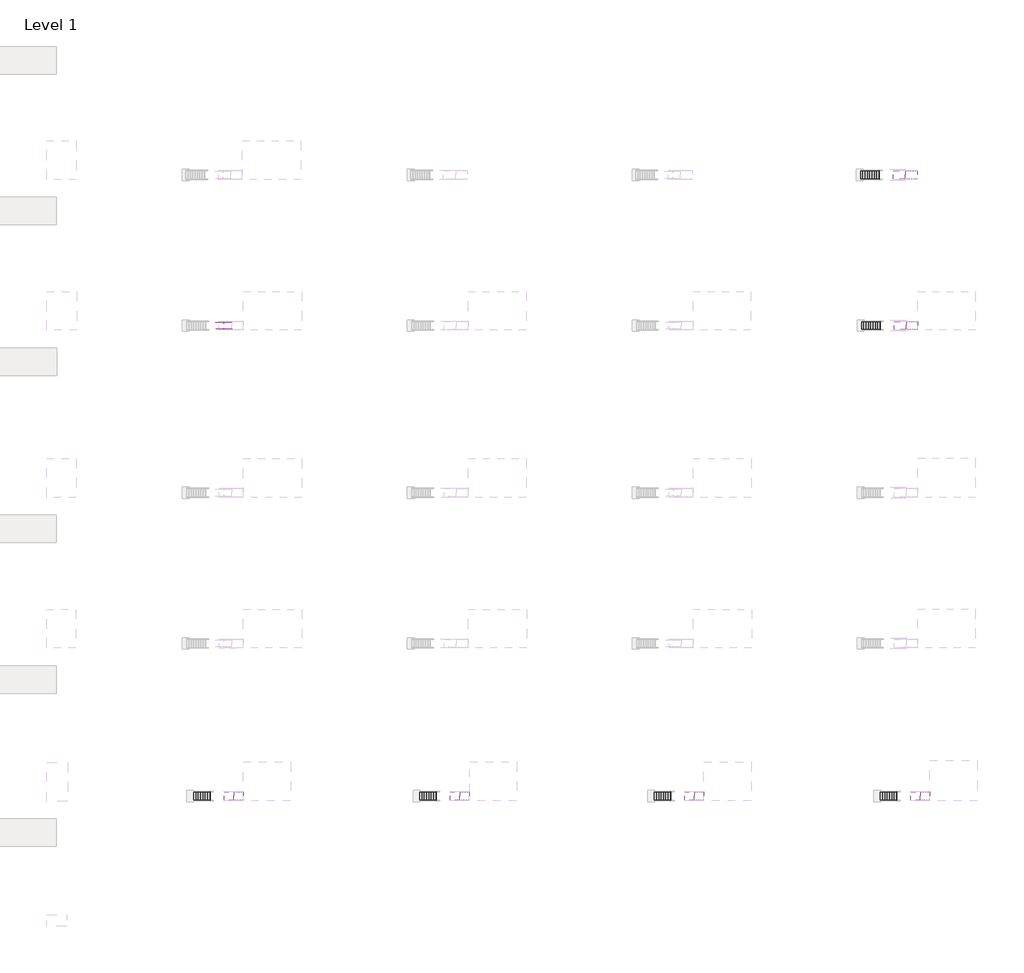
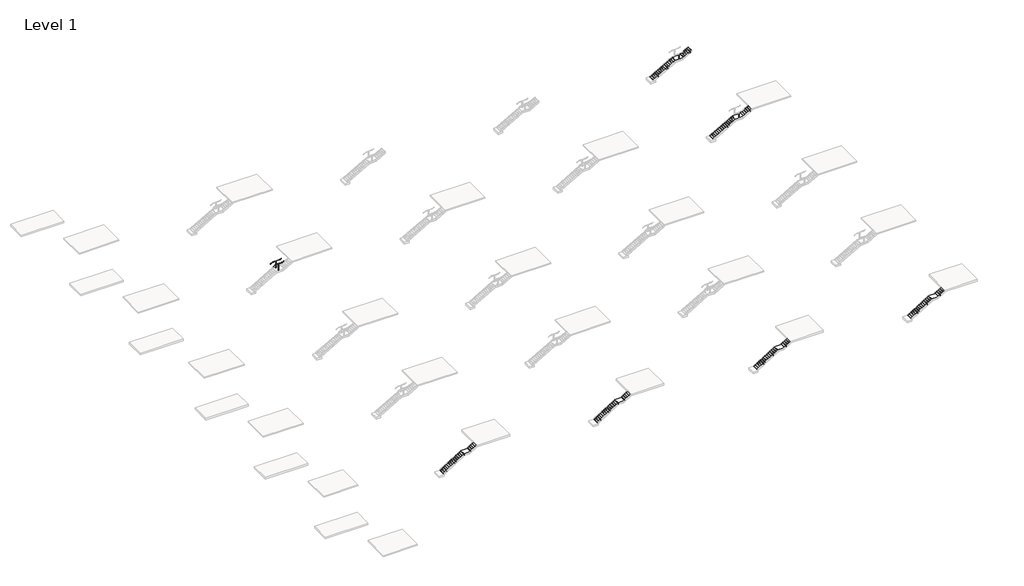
# One storey, part 29 of 36: 12 stair flights, 6 slabs, 2 railings.
"""IFC4 building model written with IfcOpenShell, lengths in millimetres."""

from ifc_helpers import new_model, si_unit, point, frame, frame_2d, origin, place, context, project, spatial, polyline, circle_curve, ellipse_curve, trimmed, segment, composite_curve, outline, extrude, transform, mapped, element, save
from ifc_brep_helpers import plane_surface, cylinder_surface, revolved_surface, advanced_brep
from components import non_monolithic_landing_3095d626, non_monolithic_landing_f6b10c4e, non_monolithic_landing_62def4c6, non_monolithic_landing_78137b62, non_monolithic_landing_c4f6e05a, non_monolithic_landing_090549e4, stair_flight_c7015294, stair_flight_4947435c, stair_flight_3032ab9d, stair_flight_241b84f4, stair_flight_890952b5, stair_flight_93be44c5, stair_flight_0a3a4cb7, stair_flight_6512d4ac, stair_flight_8c7c9975, stair_flight_f84f33cc, stair_flight_66ac9dfc, stair_flight_3dfb1ecf

model = new_model("IFC4")

# Units and contexts
model_context = context("Model", 3, world=origin())
ifc_project = project(units=[si_unit("LENGTHUNIT", "METRE", prefix="MILLI")], contexts=[model_context])

# Site, building, storey
site = spatial("IfcSite", under=ifc_project)
building = spatial("IfcBuilding", under=site)
storey = spatial("IfcBuildingStorey", under=building, Name="Level 1", Elevation=0.0)

# Railings
placement = place(None, origin())
element("IfcRailing", 1, ObjectType="VIVA-BLADE-Glass-Core Mount-Stair-Landing", at=placement, inside=storey, context=model_context, shape_type="SolidModel", body=[
    advanced_brep(
    [(87472.8048368, 15909.5395941, 3047.7740933), (87472.8048368, 15960.3395941, 3047.7740933), (87860.5501735, 15909.5395941, 3269.3428571), (87860.5501735, 15960.3395941, 3269.3428571), (88927.3501735, 15909.5395941, 3269.3428571), (88927.3501735, 15960.3395941, 3269.3428571), (89177.7798368, 15909.5395941, 3412.4455219), (89177.7798368, 15960.3395941, 3412.4455219)],
    [
        (0, 1, ellipse_curve(frame((87472.8048368, 15934.9395941, 3047.7740933), z_axis=(-1.0, 0.0, 0.0), x_axis=(0.0, 0.0, -0.9999999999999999)), 29.2544781, 25.4)),
        (1, 0, ellipse_curve(frame((87472.8048368, 15934.9395941, 3047.7740933), z_axis=(-1.0, 0.0, 0.0), x_axis=(0.0, 0.0, -0.9999999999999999)), 29.2544781, 25.4)),
        (0, 2),
        (2, 3, ellipse_curve(frame((87860.5501735, 15934.9395941, 3269.3428571), z_axis=(-0.9664996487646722, 0.0, -0.2566679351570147), x_axis=(0.25666793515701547, 0.0, -0.9664996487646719)), 26.2804027, 25.4)),
        (3, 1),
        (3, 2, ellipse_curve(frame((87860.5501735, 15934.9395941, 3269.3428571), z_axis=(-0.9664996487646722, 0.0, -0.2566679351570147), x_axis=(0.25666793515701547, 0.0, -0.9664996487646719)), 26.2804027, 25.4)),
        (2, 4),
        (4, 5, ellipse_curve(frame((88927.3501735, 15934.9395941, 3269.3428571), z_axis=(-0.9664996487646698, 0.0, -0.2566679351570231), x_axis=(-0.2566679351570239, 0.0, 0.9664996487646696)), 26.2804027, 25.4)),
        (5, 3),
        (5, 4, ellipse_curve(frame((88927.3501735, 15934.9395941, 3269.3428571), z_axis=(-0.9664996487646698, 0.0, -0.2566679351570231), x_axis=(-0.2566679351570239, 0.0, 0.9664996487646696)), 26.2804027, 25.4)),
        (6, 7, ellipse_curve(frame((89177.7798368, 15934.9395941, 3412.4455219), z_axis=(1.0, 0.0, 0.0), x_axis=(0.0, 0.0, -1.0)), 29.2544781, 25.4)),
        (7, 6, ellipse_curve(frame((89177.7798368, 15934.9395941, 3412.4455219), z_axis=(1.0, 0.0, 0.0), x_axis=(0.0, 0.0, -1.0)), 29.2544781, 25.4)),
        (4, 6),
        (7, 5),
    ],
    [
        plane_surface(frame((87472.8048368, 15934.9395941, 3077.0285714), z_axis=(-1.0, 0.0, 0.0), x_axis=(0.0, 1.0, 0.0))),
        cylinder_surface(frame((87485.4067658, 15934.9395941, 3054.9751956), z_axis=(-0.868243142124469, 0.0, -0.49613893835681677), x_axis=(0.0, 1.0, 0.0)), 25.4),
        cylinder_surface(frame((87853.8048368, 15934.9395941, 3269.3428571), z_axis=(-1.0, 0.0, 0.0), x_axis=(0.0, 1.0, 0.0)), 25.4),
        plane_surface(frame((89177.7798368, 15934.9395941, 3441.7), z_axis=(1.0, 0.0, 0.0), x_axis=(0.0, 1.0, 0.0))),
        cylinder_surface(frame((88933.2067658, 15934.9395941, 3272.6894813), z_axis=(-0.8682431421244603, 0.0, -0.4961389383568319), x_axis=(0.0, 1.0, 0.0)), 25.4),
    ],
    [
        (0, [[1, 2]]),
        (1, [[-1, 3, 4, 5]]),
        (1, [[-2, -5, 6, -3]]),
        (2, [[-4, 7, 8, 9]]),
        (2, [[-6, -9, 10, -7]]),
        (3, [[11, 12]]),
        (4, [[-8, 13, -12, 14]]),
        (4, [[-10, -14, -11, -13]]),
    ],
),
    extrude(outline(composite_curve([segment(trimmed(circle_curve(frame_2d((0.0, 7.0)), 7.0), [point((0.0, 14.0))], [point((0.0, 0.0))], False, "CARTESIAN"), True, "CONTINUOUS"), segment(trimmed(circle_curve(frame_2d((0.0, 7.0)), 7.0), [point((0.0, 0.0))], [point((0.0, 14.0))], False, "CARTESIAN"), True, "CONTINUOUS")], self_intersect=False)), frame((88325.2080869, 16020.6232165, 3013.7229503), z_axis=(0.0012555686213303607, 0.0, 0.999999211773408), x_axis=(0.999999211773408, 0.0, -0.0012555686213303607)), (0.0, 0.0, 1.0), 75.97),
    extrude(outline(composite_curve([segment(trimmed(circle_curve(frame_2d((16028.8711486, 3111.669086)), 19.05), [point((16015.3415603, 3098.2581672))], [point((16042.4007368, 3098.2581672))], True, "CARTESIAN"), True, "CONTINUOUS"), segment(polyline([(16042.4007368, 3098.2581672), (16043.4271264, 3097.2407802)]), True, "CONTINUOUS"), segment(trimmed(circle_curve(frame_2d((16042.3711486, 3096.1754583)), 1.5), [point((16043.4271264, 3097.2407802))], [point((16043.35655, 3095.0445366))], False, "CARTESIAN"), True, "CONTINUOUS"), segment(trimmed(circle_curve(frame_2d((16028.8711486, 3111.669086)), 22.05), [point((16043.35655, 3095.0445366))], [point((16014.3857471, 3095.0445366))], False, "CARTESIAN"), True, "CONTINUOUS"), segment(trimmed(circle_curve(frame_2d((16015.3711486, 3096.1754583)), 1.5), [point((16014.3857471, 3095.0445366))], [point((16014.3151707, 3097.2407802))], False, "CARTESIAN"), True, "CONTINUOUS"), segment(polyline([(16014.3151707, 3097.2407802), (16015.3415603, 3098.2581672)]), True, "CONTINUOUS")], self_intersect=False)), frame((88288.8567022, 0.0, 0.0), z_axis=(1.0, 0.0, 0.0), x_axis=(0.0, 1.0, 0.0)), (0.0, 0.0, 1.0), 74.5229187),
    extrude(outline(composite_curve([segment(trimmed(circle_curve(frame_2d((3040.5995463, 88325.2679904)), 12.5), [point((3040.5995463, 88312.7679904))], [point((3040.5995463, 88337.7679904))], False, "CARTESIAN"), True, "CONTINUOUS"), segment(trimmed(circle_curve(frame_2d((3040.5995463, 88325.2679904)), 12.5), [point((3040.5995463, 88337.7679904))], [point((3040.5995463, 88312.7679904))], False, "CARTESIAN"), True, "CONTINUOUS")], self_intersect=False)), frame((0.0, 15960.3393908, 0.0), z_axis=(0.0, 1.0, 0.0), x_axis=(0.0, 0.0, 1.0)), (0.0, 0.0, 1.0), 82.061346),
    extrude(outline(polyline([(88352.3671725, 15966.6893908), (88352.3671725, 15960.3393908), (88298.2397725, 15960.3393908), (88298.2397725, 15966.6893908), (88352.3671725, 15966.6893908)])), frame((0.0, 0.0, 3013.6558249), z_axis=(0.0, 0.0, 1.0), x_axis=(1.0, 0.0, 0.0)), (0.0, 0.0, 1.0), 54.1734375),
    extrude(outline(composite_curve([segment(trimmed(circle_curve(frame_2d((88325.2803999, 15931.5036542)), 63.5), [point((88325.2803999, 15868.0036542))], [point((88325.2803999, 15995.0036542))], False, "CARTESIAN"), True, "CONTINUOUS"), segment(trimmed(circle_curve(frame_2d((88325.2803999, 15931.5036542)), 63.5), [point((88325.2803999, 15995.0036542))], [point((88325.2803999, 15868.0036542))], False, "CARTESIAN"), True, "CONTINUOUS")], self_intersect=False)), frame((0.0, 0.0, 2177.1428571), z_axis=(0.0, 0.0, 1.0), x_axis=(1.0, 0.0, 0.0)), (0.0, 0.0, 1.0), 9.525),
    advanced_brep(
    [(88370.5297368, 15947.6997177, 3247.3396226), (88370.5297368, 15922.8276532, 3247.1963856), (88370.5297368, 15920.0187229, 3242.3696317), (88370.5297368, 15951.5356152, 3242.9503901), (88280.0549368, 15947.6997177, 3247.3396226), (88280.0549368, 15951.5356152, 3242.9503901), (88280.0549368, 15919.9049295, 3242.4322535), (88280.0549368, 15922.7406811, 3247.2447018)],
    [
        (0, 1, circle_curve(frame((88370.5297368, 15935.1359148, 3269.4544469), z_axis=(-1.0, 0.0, 0.0), x_axis=(0.0, 1.0, 0.0)), 25.4345159)),
        (1, 2, circle_curve(frame((88370.5297368, 15921.496028, 3244.742217), z_axis=(1.0, 0.0, 0.0), x_axis=(0.0, 1.0, 0.0)), 2.7949225)),
        (2, 3, circle_curve(frame((88370.5297368, 15935.2693779, 3270.2170736), z_axis=(1.0, 0.0, 0.0), x_axis=(0.0, 1.0, 0.0)), 31.75)),
        (3, 0, circle_curve(frame((88370.5297368, 15949.2472754, 3244.8213092), z_axis=(1.0, 0.0, 0.0), x_axis=(0.0, 1.0, 0.0)), 2.9558141)),
        (4, 5, circle_curve(frame((88280.0549368, 15949.2472754, 3244.8213092), z_axis=(-1.0, 0.0, 0.0), x_axis=(0.0, 1.0, 0.0)), 2.9558141)),
        (5, 6, circle_curve(frame((88280.0549368, 15935.2693779, 3270.2170736), z_axis=(-1.0, 0.0, 0.0), x_axis=(0.0, 1.0, 0.0)), 31.75)),
        (6, 7, circle_curve(frame((88280.0549368, 15921.496028, 3244.742217), z_axis=(-1.0, 0.0, 0.0), x_axis=(0.0, 1.0, 0.0)), 2.7949225)),
        (7, 4, circle_curve(frame((88280.0549368, 15935.1359148, 3269.4544469), z_axis=(1.0, 0.0, 0.0), x_axis=(0.0, 1.0, 0.0)), 25.4345159)),
        (0, 4),
        (7, 1),
        (6, 2),
        (5, 3),
    ],
    [
        plane_surface(frame((88370.5297368, 15960.5704307, 3269.4544469), z_axis=(1.0, 0.0, 0.0), x_axis=(0.0, 0.0, -1.0))),
        plane_surface(frame((88280.0549368, 15960.5704307, 3269.4544469), z_axis=(-1.0, 0.0, 0.0), x_axis=(0.0, 0.0, 1.0))),
        revolved_surface(polyline([(88280.0549368, 15960.5704307, 3269.4544469), (88370.5297368, 15960.5704307, 3269.4544469)]), (88280.0549368, 15935.1359148, 3269.4544469), (-1.0, 0.0, 0.0)),
        cylinder_surface(frame((88280.0549368, 15921.496028, 3244.742217), z_axis=(1.0, 0.0, 0.0), x_axis=(0.0, 1.0, 0.0)), 2.7949225),
        cylinder_surface(frame((88280.0549368, 15935.2693779, 3270.2170736), z_axis=(1.0, 0.0, 0.0), x_axis=(0.0, 1.0, 0.0)), 31.75),
        cylinder_surface(frame((88280.0549368, 15949.2472754, 3244.8213092), z_axis=(1.0, 0.0, 0.0), x_axis=(0.0, 1.0, 0.0)), 2.9558141),
    ],
    [
        (0, [[1, 2, 3, 4]]),
        (1, [[5, 6, 7, 8]]),
        (2, [[-1, 9, -8, 10]]),
        (3, [[-2, -10, -7, 11]]),
        (4, [[-3, -11, -6, 12]]),
        (5, [[-4, -12, -5, -9]]),
    ],
),
    advanced_brep(
    [(88337.9923368, 15937.4795941, 3229.6553571), (88312.5923368, 15937.4795941, 3229.6553571), (88298.2244219, 15937.4795941, 3244.023272), (88352.3602517, 15937.4795941, 3244.023272), (88337.9923368, 15932.3995941, 3229.6553571), (88352.3602517, 15932.3995941, 3244.023272), (88298.2244219, 15932.3995941, 3244.023272), (88312.5923368, 15932.3995941, 3229.6553571)],
    [
        (0, 1),
        (1, 2, circle_curve(frame((88298.2244219, 15937.4795941, 3229.6553571), z_axis=(0.0, -1.0, 0.0), x_axis=(-1.0, 0.0, 0.0)), 14.3679149)),
        (2, 3),
        (3, 0, circle_curve(frame((88352.3602517, 15937.4795941, 3229.6553571), z_axis=(0.0, -1.0, 0.0), x_axis=(-1.0, 0.0, 0.0)), 14.3679149)),
        (4, 5, circle_curve(frame((88352.3602517, 15932.3995941, 3229.6553571), z_axis=(0.0, 1.0, 0.0), x_axis=(-1.0, 0.0, 0.0)), 14.3679149)),
        (5, 6),
        (6, 7, circle_curve(frame((88298.2244219, 15932.3995941, 3229.6553571), z_axis=(0.0, 1.0, 0.0), x_axis=(-1.0, 0.0, 0.0)), 14.3679149)),
        (7, 4),
        (0, 4),
        (7, 1),
        (6, 2),
        (5, 3),
    ],
    [
        plane_surface(frame((88312.5923368, 15937.4795941, 3229.6553571), z_axis=(0.0, 1.0, 0.0), x_axis=(-1.0, 0.0, 0.0))),
        plane_surface(frame((88312.5923368, 15932.3995941, 3229.6553571), z_axis=(0.0, -1.0, 0.0), x_axis=(1.0, 0.0, 0.0))),
        plane_surface(frame((88337.9923368, 15937.4795941, 3229.6553571), z_axis=(0.0, 0.0, -1.0), x_axis=(0.0, -1.0, 0.0))),
        revolved_surface(polyline([(88283.856507, 15932.3995941, 3229.6553571), (88283.856507, 15937.4795941, 3229.6553571)]), (88298.2244219, 15932.3995941, 3229.6553571), (0.0, -1.0, 0.0)),
        plane_surface(frame((88298.2244219, 15937.4795941, 3244.023272), z_axis=(0.0, 0.0, 1.0), x_axis=(0.0, -1.0, 0.0))),
        revolved_surface(polyline([(88337.9923368, 15932.3995941, 3229.6553571), (88337.9923368, 15937.4795941, 3229.6553571)]), (88352.3602517, 15932.3995941, 3229.6553571), (0.0, -1.0, 0.0)),
    ],
    [
        (0, [[1, 2, 3, 4]]),
        (1, [[5, 6, 7, 8]]),
        (2, [[-1, 9, -8, 10]]),
        (3, [[-2, -10, -7, 11]]),
        (4, [[-3, -11, -6, 12]]),
        (5, [[-4, -12, -5, -9]]),
    ],
),
    extrude(outline(polyline([(88298.2175011, 15960.3393908), (88306.2423368, 15960.3393908), (88306.2423368, 15909.5370662), (88298.2175011, 15909.5370662), (88298.2175011, 15960.3393908)])), frame((0.0, 0.0, 2237.6440557), z_axis=(0.0, 0.0, 1.0), x_axis=(1.0, 0.0, 0.0)), (0.0, 0.0, 1.0), 974.5488015),
    extrude(outline(polyline([(88333.221338, 15960.3389919), (88333.221338, 15909.5389996), (88317.2853476, 15909.5389996), (88317.2853476, 15960.3389919), (88333.221338, 15960.3389919)])), frame((0.0, 0.0, 2075.5428571), z_axis=(0.0, 0.0, 1.0), x_axis=(1.0, 0.0, 0.0)), (0.0, 0.0, 1.0), 342.9),
    extrude(outline(composite_curve([segment(trimmed(circle_curve(frame_2d((15922.2371172, 3201.2845501)), 8.89), [point((15913.3471172, 3201.2845501))], [point((15931.1271172, 3201.2845501))], False, "CARTESIAN"), True, "CONTINUOUS"), segment(trimmed(circle_curve(frame_2d((15922.2371172, 3201.2845501)), 8.89), [point((15931.1271172, 3201.2845501))], [point((15913.3471172, 3201.2845501))], False, "CARTESIAN"), True, "CONTINUOUS")], self_intersect=False)), frame((88293.5423368, 0.0, 0.0), z_axis=(1.0, 0.0, 0.0), x_axis=(0.0, 1.0, 0.0)), (0.0, 0.0, 1.0), 63.4880631),
    extrude(outline(composite_curve([segment(trimmed(circle_curve(frame_2d((15947.6370151, 3201.2845501)), 8.89), [point((15938.7470151, 3201.2845501))], [point((15956.5270151, 3201.2845501))], False, "CARTESIAN"), True, "CONTINUOUS"), segment(trimmed(circle_curve(frame_2d((15947.6370151, 3201.2845501)), 8.89), [point((15956.5270151, 3201.2845501))], [point((15938.7470151, 3201.2845501))], False, "CARTESIAN"), True, "CONTINUOUS")], self_intersect=False)), frame((88293.5423368, 0.0, 0.0), z_axis=(1.0, 0.0, 0.0), x_axis=(0.0, 1.0, 0.0)), (0.0, 0.0, 1.0), 63.4880631),
    extrude(outline(polyline([(3189.9551571, 88306.2423368), (3189.9551571, 88344.3423368), (3223.3053571, 88344.3423368), (3229.6553571, 88337.9923368), (3229.6553571, 88312.5923368), (3223.3053571, 88306.2423368), (3189.9551571, 88306.2423368)])), frame((0.0, 15909.5370662, 0.0), z_axis=(0.0, 1.0, 0.0), x_axis=(0.0, 0.0, 1.0)), (0.0, 0.0, 1.0), 50.8025279),
    extrude(outline(composite_curve([segment(trimmed(circle_curve(frame_2d((15934.9397998, 2385.1476493)), 19.05), [point((15915.8897998, 2385.1476493))], [point((15953.9897998, 2385.1476493))], False, "CARTESIAN"), True, "CONTINUOUS"), segment(trimmed(circle_curve(frame_2d((15934.9397998, 2385.1476493)), 19.05), [point((15953.9897998, 2385.1476493))], [point((15915.8897998, 2385.1476493))], False, "CARTESIAN"), True, "CONTINUOUS")], self_intersect=False)), frame((88288.8433368, 0.0, 0.0), z_axis=(1.0, 0.0, 0.0), x_axis=(0.0, 1.0, 0.0)), (0.0, 0.0, 1.0), 72.8981531),
    extrude(outline(composite_curve([segment(trimmed(circle_curve(frame_2d((15934.9397998, 2296.2476493)), 19.05), [point((15915.8897998, 2296.2476493))], [point((15953.9897998, 2296.2476493))], False, "CARTESIAN"), True, "CONTINUOUS"), segment(trimmed(circle_curve(frame_2d((15934.9397998, 2296.2476493)), 19.05), [point((15953.9897998, 2296.2476493))], [point((15915.8897998, 2296.2476493))], False, "CARTESIAN"), True, "CONTINUOUS")], self_intersect=False)), frame((88288.8433368, 0.0, 0.0), z_axis=(1.0, 0.0, 0.0), x_axis=(0.0, 1.0, 0.0)), (0.0, 0.0, 1.0), 72.8981531),
    extrude(outline(polyline([(88344.3422988, 15960.3393908), (88352.3432988, 15960.3393908), (88352.3432988, 15909.5370662), (88344.3422988, 15909.5370662), (88344.3422988, 15960.3393908)])), frame((0.0, 0.0, 2237.6440557), z_axis=(0.0, 0.0, 1.0), x_axis=(1.0, 0.0, 0.0)), (0.0, 0.0, 1.0), 974.5488015),
])
element("IfcRailing", 2, ObjectType="VIVA-BLADE-Glass-Core Mount-Stair-Landing", at=placement, inside=storey, context=model_context, shape_type="SolidModel", body=[
    advanced_brep(
    [(87472.8048368, 16646.1395941, 3047.7740933), (87472.8048368, 16696.9395941, 3047.7740933), (87860.5501735, 16646.1395941, 3269.3428571), (87860.5501735, 16696.9395941, 3269.3428571), (88927.3501735, 16646.1395941, 3269.3428571), (88927.3501735, 16696.9395941, 3269.3428571), (89177.7798368, 16646.1395941, 3412.4455219), (89177.7798368, 16696.9395941, 3412.4455219)],
    [
        (0, 1, ellipse_curve(frame((87472.8048368, 16671.5395941, 3047.7740933), z_axis=(-1.0, 0.0, 0.0), x_axis=(0.0, 0.0, -0.9999999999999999)), 29.2544781, 25.4)),
        (1, 0, ellipse_curve(frame((87472.8048368, 16671.5395941, 3047.7740933), z_axis=(-1.0, 0.0, 0.0), x_axis=(0.0, 0.0, -0.9999999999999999)), 29.2544781, 25.4)),
        (0, 2),
        (2, 3, ellipse_curve(frame((87860.5501735, 16671.5395941, 3269.3428571), z_axis=(-0.9664996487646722, 0.0, -0.2566679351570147), x_axis=(0.25666793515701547, 0.0, -0.9664996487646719)), 26.2804027, 25.4)),
        (3, 1),
        (3, 2, ellipse_curve(frame((87860.5501735, 16671.5395941, 3269.3428571), z_axis=(-0.9664996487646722, 0.0, -0.2566679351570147), x_axis=(0.25666793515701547, 0.0, -0.9664996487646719)), 26.2804027, 25.4)),
        (2, 4),
        (4, 5, ellipse_curve(frame((88927.3501735, 16671.5395941, 3269.3428571), z_axis=(-0.9664996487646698, 0.0, -0.2566679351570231), x_axis=(-0.2566679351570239, 0.0, 0.9664996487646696)), 26.2804027, 25.4)),
        (5, 3),
        (5, 4, ellipse_curve(frame((88927.3501735, 16671.5395941, 3269.3428571), z_axis=(-0.9664996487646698, 0.0, -0.2566679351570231), x_axis=(-0.2566679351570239, 0.0, 0.9664996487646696)), 26.2804027, 25.4)),
        (6, 7, ellipse_curve(frame((89177.7798368, 16671.5395941, 3412.4455219), z_axis=(1.0, 0.0, 0.0), x_axis=(0.0, 0.0, -1.0)), 29.2544781, 25.4)),
        (7, 6, ellipse_curve(frame((89177.7798368, 16671.5395941, 3412.4455219), z_axis=(1.0, 0.0, 0.0), x_axis=(0.0, 0.0, -1.0)), 29.2544781, 25.4)),
        (4, 6),
        (7, 5),
    ],
    [
        plane_surface(frame((87472.8048368, 16671.5395941, 3077.0285714), z_axis=(-1.0, 0.0, 0.0), x_axis=(0.0, 1.0, 0.0))),
        cylinder_surface(frame((87485.4067658, 16671.5395941, 3054.9751956), z_axis=(-0.868243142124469, 0.0, -0.49613893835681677), x_axis=(0.0, 1.0, 0.0)), 25.4),
        cylinder_surface(frame((87853.8048368, 16671.5395941, 3269.3428571), z_axis=(-1.0, 0.0, 0.0), x_axis=(0.0, 1.0, 0.0)), 25.4),
        plane_surface(frame((89177.7798368, 16671.5395941, 3441.7), z_axis=(1.0, 0.0, 0.0), x_axis=(0.0, 1.0, 0.0))),
        cylinder_surface(frame((88933.2067658, 16671.5395941, 3272.6894813), z_axis=(-0.8682431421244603, 0.0, -0.4961389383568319), x_axis=(0.0, 1.0, 0.0)), 25.4),
    ],
    [
        (0, [[1, 2]]),
        (1, [[-1, 3, 4, 5]]),
        (1, [[-2, -5, 6, -3]]),
        (2, [[-4, 7, 8, 9]]),
        (2, [[-6, -9, 10, -7]]),
        (3, [[11, 12]]),
        (4, [[-8, 13, -12, 14]]),
        (4, [[-10, -14, -11, -13]]),
    ],
),
    extrude(outline(composite_curve([segment(trimmed(circle_curve(frame_2d((0.0, -7.0)), 7.0), [point((0.0, -14.0))], [point((0.0, 0.0))], False, "CARTESIAN"), True, "CONTINUOUS"), segment(trimmed(circle_curve(frame_2d((0.0, -7.0)), 7.0), [point((0.0, 0.0))], [point((0.0, -14.0))], False, "CARTESIAN"), True, "CONTINUOUS")], self_intersect=False)), frame((88325.2080869, 16585.8559717, 3013.7229503), z_axis=(0.0012555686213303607, 0.0, 0.999999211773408), x_axis=(0.999999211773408, 0.0, -0.0012555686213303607)), (0.0, 0.0, 1.0), 75.97),
    extrude(outline(composite_curve([segment(polyline([(16591.1376279, 3098.2581672), (16592.1640175, 3097.2407802)]), True, "CONTINUOUS"), segment(trimmed(circle_curve(frame_2d((16591.1080396, 3096.1754583)), 1.5), [point((16592.1640175, 3097.2407802))], [point((16592.0934411, 3095.0445366))], False, "CARTESIAN"), True, "CONTINUOUS"), segment(trimmed(circle_curve(frame_2d((16577.6080396, 3111.669086)), 22.05), [point((16592.0934411, 3095.0445366))], [point((16563.1226382, 3095.0445366))], False, "CARTESIAN"), True, "CONTINUOUS"), segment(trimmed(circle_curve(frame_2d((16564.1080396, 3096.1754583)), 1.5), [point((16563.1226382, 3095.0445366))], [point((16563.0520618, 3097.2407802))], False, "CARTESIAN"), True, "CONTINUOUS"), segment(polyline([(16563.0520618, 3097.2407802), (16564.0784514, 3098.2581672)]), True, "CONTINUOUS"), segment(trimmed(circle_curve(frame_2d((16577.6080396, 3111.669086)), 19.05), [point((16564.0784514, 3098.2581672))], [point((16591.1376279, 3098.2581672))], True, "CARTESIAN"), True, "CONTINUOUS")], self_intersect=False)), frame((88288.8567022, 0.0, 0.0), z_axis=(1.0, 0.0, 0.0), x_axis=(0.0, 1.0, 0.0)), (0.0, 0.0, 1.0), 74.5229187),
    extrude(outline(composite_curve([segment(trimmed(circle_curve(frame_2d((3040.5995463, 88325.2679904)), 12.5), [point((3040.5995463, 88312.7679904))], [point((3040.5995463, 88337.7679904))], False, "CARTESIAN"), True, "CONTINUOUS"), segment(trimmed(circle_curve(frame_2d((3040.5995463, 88325.2679904)), 12.5), [point((3040.5995463, 88337.7679904))], [point((3040.5995463, 88312.7679904))], False, "CARTESIAN"), True, "CONTINUOUS")], self_intersect=False)), frame((0.0, 16564.0784514, 0.0), z_axis=(0.0, 1.0, 0.0), x_axis=(0.0, 0.0, 1.0)), (0.0, 0.0, 1.0), 82.061346),
    extrude(outline(polyline([(88352.3671725, 16639.7897974), (88298.2397725, 16639.7897974), (88298.2397725, 16646.1397974), (88352.3671725, 16646.1397974), (88352.3671725, 16639.7897974)])), frame((0.0, 0.0, 3013.6558249), z_axis=(0.0, 0.0, 1.0), x_axis=(1.0, 0.0, 0.0)), (0.0, 0.0, 1.0), 54.1734375),
    extrude(outline(composite_curve([segment(trimmed(circle_curve(frame_2d((88325.2803999, 16674.975534)), 63.5), [point((88325.2803999, 16738.475534))], [point((88325.2803999, 16611.475534))], False, "CARTESIAN"), True, "CONTINUOUS"), segment(trimmed(circle_curve(frame_2d((88325.2803999, 16674.975534)), 63.5), [point((88325.2803999, 16611.475534))], [point((88325.2803999, 16738.475534))], False, "CARTESIAN"), True, "CONTINUOUS")], self_intersect=False)), frame((0.0, 0.0, 2177.1428571), z_axis=(0.0, 0.0, 1.0), x_axis=(1.0, 0.0, 0.0)), (0.0, 0.0, 1.0), 9.525),
    advanced_brep(
    [(88370.5297368, 16658.7794705, 3247.3396226), (88370.5297368, 16654.9435731, 3242.9503901), (88370.5297368, 16686.4604653, 3242.3696317), (88370.5297368, 16683.651535, 3247.1963856), (88280.0549368, 16658.7794705, 3247.3396226), (88280.0549368, 16683.7385071, 3247.2447018), (88280.0549368, 16686.5742587, 3242.4322535), (88280.0549368, 16654.9435731, 3242.9503901)],
    [
        (0, 1, circle_curve(frame((88370.5297368, 16657.2319128, 3244.8213092), z_axis=(1.0, 0.0, 0.0), x_axis=(0.0, -1.0, 0.0)), 2.9558141)),
        (1, 2, circle_curve(frame((88370.5297368, 16671.2098103, 3270.2170736), z_axis=(1.0, 0.0, 0.0), x_axis=(0.0, -1.0, 0.0)), 31.75)),
        (2, 3, circle_curve(frame((88370.5297368, 16684.9831602, 3244.742217), z_axis=(1.0, 0.0, 0.0), x_axis=(0.0, -1.0, 0.0)), 2.7949225)),
        (3, 0, circle_curve(frame((88370.5297368, 16671.3432734, 3269.4544469), z_axis=(-1.0, 0.0, 0.0), x_axis=(0.0, -1.0, 0.0)), 25.4345159)),
        (4, 5, circle_curve(frame((88280.0549368, 16671.3432734, 3269.4544469), z_axis=(1.0, 0.0, 0.0), x_axis=(0.0, -1.0, 0.0)), 25.4345159)),
        (5, 6, circle_curve(frame((88280.0549368, 16684.9831602, 3244.742217), z_axis=(-1.0, 0.0, 0.0), x_axis=(0.0, -1.0, 0.0)), 2.7949225)),
        (6, 7, circle_curve(frame((88280.0549368, 16671.2098103, 3270.2170736), z_axis=(-1.0, 0.0, 0.0), x_axis=(0.0, -1.0, 0.0)), 31.75)),
        (7, 4, circle_curve(frame((88280.0549368, 16657.2319128, 3244.8213092), z_axis=(-1.0, 0.0, 0.0), x_axis=(0.0, -1.0, 0.0)), 2.9558141)),
        (3, 5),
        (4, 0),
        (2, 6),
        (1, 7),
    ],
    [
        plane_surface(frame((88370.5297368, 16645.9087575, 3269.4544469), z_axis=(1.0, 0.0, 0.0), x_axis=(0.0, 0.0, -1.0))),
        plane_surface(frame((88280.0549368, 16645.9087575, 3269.4544469), z_axis=(-1.0, 0.0, 0.0), x_axis=(0.0, 0.0, 1.0))),
        revolved_surface(polyline([(88280.0549368, 16645.9087575, 3269.4544469), (88370.5297368, 16645.9087575, 3269.4544469)]), (88280.0549368, 16671.3432734, 3269.4544469), (-1.0, 0.0, 0.0)),
        cylinder_surface(frame((88280.0549368, 16684.9831602, 3244.742217), z_axis=(1.0, 0.0, 0.0), x_axis=(0.0, -1.0, 0.0)), 2.7949225),
        cylinder_surface(frame((88280.0549368, 16671.2098103, 3270.2170736), z_axis=(1.0, 0.0, 0.0), x_axis=(0.0, -1.0, 0.0)), 31.75),
        cylinder_surface(frame((88280.0549368, 16657.2319128, 3244.8213092), z_axis=(1.0, 0.0, 0.0), x_axis=(0.0, -1.0, 0.0)), 2.9558141),
    ],
    [
        (0, [[1, 2, 3, 4]]),
        (1, [[5, 6, 7, 8]]),
        (2, [[9, -5, 10, -4]]),
        (3, [[11, -6, -9, -3]]),
        (4, [[12, -7, -11, -2]]),
        (5, [[-10, -8, -12, -1]]),
    ],
),
    advanced_brep(
    [(88337.9923368, 16668.9995941, 3229.6553571), (88352.3602517, 16668.9995941, 3244.023272), (88298.2244219, 16668.9995941, 3244.023272), (88312.5923368, 16668.9995941, 3229.6553571), (88337.9923368, 16674.0795941, 3229.6553571), (88312.5923368, 16674.0795941, 3229.6553571), (88298.2244219, 16674.0795941, 3244.023272), (88352.3602517, 16674.0795941, 3244.023272)],
    [
        (0, 1, circle_curve(frame((88352.3602517, 16668.9995941, 3229.6553571), z_axis=(0.0, 1.0, 0.0), x_axis=(-1.0, 0.0, 0.0)), 14.3679149)),
        (1, 2),
        (2, 3, circle_curve(frame((88298.2244219, 16668.9995941, 3229.6553571), z_axis=(0.0, 1.0, 0.0), x_axis=(-1.0, 0.0, 0.0)), 14.3679149)),
        (3, 0),
        (4, 5),
        (5, 6, circle_curve(frame((88298.2244219, 16674.0795941, 3229.6553571), z_axis=(0.0, -1.0, 0.0), x_axis=(-1.0, 0.0, 0.0)), 14.3679149)),
        (6, 7),
        (7, 4, circle_curve(frame((88352.3602517, 16674.0795941, 3229.6553571), z_axis=(0.0, -1.0, 0.0), x_axis=(-1.0, 0.0, 0.0)), 14.3679149)),
        (3, 5),
        (4, 0),
        (2, 6),
        (1, 7),
    ],
    [
        plane_surface(frame((88312.5923368, 16668.9995941, 3229.6553571), z_axis=(0.0, -1.0, 0.0), x_axis=(-1.0, 0.0, 0.0))),
        plane_surface(frame((88312.5923368, 16674.0795941, 3229.6553571), z_axis=(0.0, 1.0, 0.0), x_axis=(1.0, 0.0, 0.0))),
        plane_surface(frame((88337.9923368, 16668.9995941, 3229.6553571), z_axis=(0.0, 0.0, -1.0), x_axis=(0.0, 1.0, 0.0))),
        revolved_surface(polyline([(88283.856507, 16674.0795941, 3229.6553571), (88283.856507, 16668.9995941, 3229.6553571)]), (88298.2244219, 16674.0795941, 3229.6553571), (0.0, 1.0, 0.0)),
        plane_surface(frame((88298.2244219, 16668.9995941, 3244.023272), z_axis=(0.0, 0.0, 1.0), x_axis=(0.0, 1.0, 0.0))),
        revolved_surface(polyline([(88337.9923368, 16674.0795941, 3229.6553571), (88337.9923368, 16668.9995941, 3229.6553571)]), (88352.3602517, 16674.0795941, 3229.6553571), (0.0, 1.0, 0.0)),
    ],
    [
        (0, [[1, 2, 3, 4]]),
        (1, [[5, 6, 7, 8]]),
        (2, [[9, -5, 10, -4]]),
        (3, [[11, -6, -9, -3]]),
        (4, [[12, -7, -11, -2]]),
        (5, [[-10, -8, -12, -1]]),
    ],
),
    extrude(outline(polyline([(88298.2175011, 16646.1397974), (88298.2175011, 16696.942122), (88306.2423368, 16696.942122), (88306.2423368, 16646.1397974), (88298.2175011, 16646.1397974)])), frame((0.0, 0.0, 2237.6440557), z_axis=(0.0, 0.0, 1.0), x_axis=(1.0, 0.0, 0.0)), (0.0, 0.0, 1.0), 974.5488015),
    extrude(outline(polyline([(88333.221338, 16646.1401963), (88317.2853476, 16646.1401963), (88317.2853476, 16696.9401886), (88333.221338, 16696.9401886), (88333.221338, 16646.1401963)])), frame((0.0, 0.0, 2075.5428571), z_axis=(0.0, 0.0, 1.0), x_axis=(1.0, 0.0, 0.0)), (0.0, 0.0, 1.0), 342.9),
    extrude(outline(composite_curve([segment(trimmed(circle_curve(frame_2d((16684.242071, 3201.2845501)), 8.89), [point((16693.132071, 3201.2845501))], [point((16675.352071, 3201.2845501))], False, "CARTESIAN"), True, "CONTINUOUS"), segment(trimmed(circle_curve(frame_2d((16684.242071, 3201.2845501)), 8.89), [point((16675.352071, 3201.2845501))], [point((16693.132071, 3201.2845501))], False, "CARTESIAN"), True, "CONTINUOUS")], self_intersect=False)), frame((88293.5423368, 0.0, 0.0), z_axis=(1.0, 0.0, 0.0), x_axis=(0.0, 1.0, 0.0)), (0.0, 0.0, 1.0), 63.4880631),
    extrude(outline(composite_curve([segment(trimmed(circle_curve(frame_2d((16658.8421731, 3201.2845501)), 8.89), [point((16667.7321731, 3201.2845501))], [point((16649.9521731, 3201.2845501))], False, "CARTESIAN"), True, "CONTINUOUS"), segment(trimmed(circle_curve(frame_2d((16658.8421731, 3201.2845501)), 8.89), [point((16649.9521731, 3201.2845501))], [point((16667.7321731, 3201.2845501))], False, "CARTESIAN"), True, "CONTINUOUS")], self_intersect=False)), frame((88293.5423368, 0.0, 0.0), z_axis=(1.0, 0.0, 0.0), x_axis=(0.0, 1.0, 0.0)), (0.0, 0.0, 1.0), 63.4880631),
    extrude(outline(polyline([(3189.9551571, 88306.2423368), (3189.9551571, 88344.3423368), (3223.3053571, 88344.3423368), (3229.6553571, 88337.9923368), (3229.6553571, 88312.5923368), (3223.3053571, 88306.2423368), (3189.9551571, 88306.2423368)])), frame((0.0, 16646.1395941, 0.0), z_axis=(0.0, 1.0, 0.0), x_axis=(0.0, 0.0, 1.0)), (0.0, 0.0, 1.0), 50.8025279),
    extrude(outline(composite_curve([segment(trimmed(circle_curve(frame_2d((16671.5393884, 2385.1476493)), 19.05), [point((16690.5893884, 2385.1476493))], [point((16652.4893884, 2385.1476493))], False, "CARTESIAN"), True, "CONTINUOUS"), segment(trimmed(circle_curve(frame_2d((16671.5393884, 2385.1476493)), 19.05), [point((16652.4893884, 2385.1476493))], [point((16690.5893884, 2385.1476493))], False, "CARTESIAN"), True, "CONTINUOUS")], self_intersect=False)), frame((88288.8433368, 0.0, 0.0), z_axis=(1.0, 0.0, 0.0), x_axis=(0.0, 1.0, 0.0)), (0.0, 0.0, 1.0), 72.8981531),
    extrude(outline(composite_curve([segment(trimmed(circle_curve(frame_2d((16671.5393884, 2296.2476493)), 19.05), [point((16690.5893884, 2296.2476493))], [point((16652.4893884, 2296.2476493))], False, "CARTESIAN"), True, "CONTINUOUS"), segment(trimmed(circle_curve(frame_2d((16671.5393884, 2296.2476493)), 19.05), [point((16652.4893884, 2296.2476493))], [point((16690.5893884, 2296.2476493))], False, "CARTESIAN"), True, "CONTINUOUS")], self_intersect=False)), frame((88288.8433368, 0.0, 0.0), z_axis=(1.0, 0.0, 0.0), x_axis=(0.0, 1.0, 0.0)), (0.0, 0.0, 1.0), 72.8981531),
    extrude(outline(polyline([(88344.3422988, 16646.1397974), (88344.3422988, 16696.942122), (88352.3432988, 16696.942122), (88352.3432988, 16646.1397974), (88344.3422988, 16646.1397974)])), frame((0.0, 0.0, 2237.6440557), z_axis=(0.0, 0.0, 1.0), x_axis=(1.0, 0.0, 0.0)), (0.0, 0.0, 1.0), 974.5488015),
])

# Slabs
non_monolithic_landing_shape = non_monolithic_landing_3095d626(model_context)
element("IfcSlab", 3, ObjectType="Non-Monolithic Landing", at=placement, inside=storey, context=model_context, shape_type="MappedRepresentation", body=[
    mapped(non_monolithic_landing_shape, transform((0.0, 0.0, 0.0), x_axis=(1.0, 0.0, 0.0), y_axis=(0.0, 1.0, 0.0), z_axis=(0.0, 0.0, 1.0))),
])
non_monolithic_landing_2_shape = non_monolithic_landing_f6b10c4e(model_context)
element("IfcSlab", 4, ObjectType="Non-Monolithic Landing", at=placement, inside=storey, context=model_context, shape_type="MappedRepresentation", body=[
    mapped(non_monolithic_landing_2_shape, transform((0.0, 0.0, 0.0), x_axis=(1.0, 0.0, 0.0), y_axis=(0.0, 1.0, 0.0), z_axis=(0.0, 0.0, 1.0))),
])
non_monolithic_landing_3_shape = non_monolithic_landing_62def4c6(model_context)
element("IfcSlab", 5, ObjectType="Non-Monolithic Landing", at=placement, inside=storey, context=model_context, shape_type="MappedRepresentation", body=[
    mapped(non_monolithic_landing_3_shape, transform((0.0, 0.0, 0.0), x_axis=(1.0, 0.0, 0.0), y_axis=(0.0, 1.0, 0.0), z_axis=(0.0, 0.0, 1.0))),
])
non_monolithic_landing_4_shape = non_monolithic_landing_78137b62(model_context)
element("IfcSlab", 6, ObjectType="Non-Monolithic Landing", at=placement, inside=storey, context=model_context, shape_type="MappedRepresentation", body=[
    mapped(non_monolithic_landing_4_shape, transform((0.0, 0.0, 0.0), x_axis=(1.0, 0.0, 0.0), y_axis=(0.0, 1.0, 0.0), z_axis=(0.0, 0.0, 1.0))),
])
non_monolithic_landing_5_shape = non_monolithic_landing_c4f6e05a(model_context)
element("IfcSlab", 7, ObjectType="Non-Monolithic Landing", at=placement, inside=storey, context=model_context, shape_type="MappedRepresentation", body=[
    mapped(non_monolithic_landing_5_shape, transform((0.0, 0.0, 0.0), x_axis=(1.0, 0.0, 0.0), y_axis=(0.0, 1.0, 0.0), z_axis=(0.0, 0.0, 1.0))),
])
non_monolithic_landing_6_shape = non_monolithic_landing_090549e4(model_context)
element("IfcSlab", 8, ObjectType="Non-Monolithic Landing", at=placement, inside=storey, context=model_context, shape_type="MappedRepresentation", body=[
    mapped(non_monolithic_landing_6_shape, transform((0.0, 0.0, 0.0), x_axis=(1.0, 0.0, 0.0), y_axis=(0.0, 1.0, 0.0), z_axis=(0.0, 0.0, 1.0))),
])

# Stair flights
stair_flight_shape = stair_flight_c7015294(model_context)
element("IfcStairFlight", 9, ObjectType="2\" Tread 1/4\" Riser", at=placement, inside=storey, context=model_context, shape_type="MappedRepresentation", body=[
    mapped(stair_flight_shape, transform((0.0, 0.0, 0.0), x_axis=(1.0, 0.0, 0.0), y_axis=(0.0, 1.0, 0.0), z_axis=(0.0, 0.0, 1.0))),
])
stair_flight_2_shape = stair_flight_4947435c(model_context)
element("IfcStairFlight", 10, ObjectType="2\" Tread 1/4\" Riser", at=placement, inside=storey, context=model_context, shape_type="MappedRepresentation", body=[
    mapped(stair_flight_2_shape, transform((0.0, 0.0, 0.0), x_axis=(1.0, 0.0, 0.0), y_axis=(0.0, 1.0, 0.0), z_axis=(0.0, 0.0, 1.0))),
])
stair_flight_3_shape = stair_flight_3032ab9d(model_context)
element("IfcStairFlight", 11, ObjectType="2\" Tread 1/4\" Riser", at=placement, inside=storey, context=model_context, shape_type="MappedRepresentation", body=[
    mapped(stair_flight_3_shape, transform((0.0, 0.0, 0.0), x_axis=(1.0, 0.0, 0.0), y_axis=(0.0, 1.0, 0.0), z_axis=(0.0, 0.0, 1.0))),
])
stair_flight_4_shape = stair_flight_241b84f4(model_context)
element("IfcStairFlight", 12, ObjectType="2\" Tread 1/4\" Riser", at=placement, inside=storey, context=model_context, shape_type="MappedRepresentation", body=[
    mapped(stair_flight_4_shape, transform((0.0, 0.0, 0.0), x_axis=(1.0, 0.0, 0.0), y_axis=(0.0, 1.0, 0.0), z_axis=(0.0, 0.0, 1.0))),
])
stair_flight_5_shape = stair_flight_890952b5(model_context)
element("IfcStairFlight", 13, ObjectType="2\" Tread 1/4\" Riser", at=placement, inside=storey, context=model_context, shape_type="MappedRepresentation", body=[
    mapped(stair_flight_5_shape, transform((0.0, 0.0, 0.0), x_axis=(1.0, 0.0, 0.0), y_axis=(0.0, 1.0, 0.0), z_axis=(0.0, 0.0, 1.0))),
])
stair_flight_6_shape = stair_flight_93be44c5(model_context)
element("IfcStairFlight", 14, ObjectType="2\" Tread 1/4\" Riser", at=placement, inside=storey, context=model_context, shape_type="MappedRepresentation", body=[
    mapped(stair_flight_6_shape, transform((0.0, 0.0, 0.0), x_axis=(1.0, 0.0, 0.0), y_axis=(0.0, 1.0, 0.0), z_axis=(0.0, 0.0, 1.0))),
])
stair_flight_7_shape = stair_flight_0a3a4cb7(model_context)
element("IfcStairFlight", 15, ObjectType="2\" Tread 1/4\" Riser", at=placement, inside=storey, context=model_context, shape_type="MappedRepresentation", body=[
    mapped(stair_flight_7_shape, transform((0.0, 0.0, 0.0), x_axis=(1.0, 0.0, 0.0), y_axis=(0.0, 1.0, 0.0), z_axis=(0.0, 0.0, 1.0))),
])
stair_flight_8_shape = stair_flight_6512d4ac(model_context)
element("IfcStairFlight", 16, ObjectType="2\" Tread 1/4\" Riser", at=placement, inside=storey, context=model_context, shape_type="MappedRepresentation", body=[
    mapped(stair_flight_8_shape, transform((0.0, 0.0, 0.0), x_axis=(1.0, 0.0, 0.0), y_axis=(0.0, 1.0, 0.0), z_axis=(0.0, 0.0, 1.0))),
])
stair_flight_9_shape = stair_flight_8c7c9975(model_context)
element("IfcStairFlight", 17, ObjectType="2\" Tread 1/4\" Riser", at=placement, inside=storey, context=model_context, shape_type="MappedRepresentation", body=[
    mapped(stair_flight_9_shape, transform((0.0, 0.0, 0.0), x_axis=(1.0, 0.0, 0.0), y_axis=(0.0, 1.0, 0.0), z_axis=(0.0, 0.0, 1.0))),
])
stair_flight_10_shape = stair_flight_f84f33cc(model_context)
element("IfcStairFlight", 18, ObjectType="2\" Tread 1/4\" Riser", at=placement, inside=storey, context=model_context, shape_type="MappedRepresentation", body=[
    mapped(stair_flight_10_shape, transform((0.0, 0.0, 0.0), x_axis=(1.0, 0.0, 0.0), y_axis=(0.0, 1.0, 0.0), z_axis=(0.0, 0.0, 1.0))),
])
stair_flight_11_shape = stair_flight_66ac9dfc(model_context)
element("IfcStairFlight", 19, ObjectType="2\" Tread 1/4\" Riser", at=placement, inside=storey, context=model_context, shape_type="MappedRepresentation", body=[
    mapped(stair_flight_11_shape, transform((0.0, 0.0, 0.0), x_axis=(1.0, 0.0, 0.0), y_axis=(0.0, 1.0, 0.0), z_axis=(0.0, 0.0, 1.0))),
])
stair_flight_12_shape = stair_flight_3dfb1ecf(model_context)
element("IfcStairFlight", 20, ObjectType="2\" Tread 1/4\" Riser", at=placement, inside=storey, context=model_context, shape_type="MappedRepresentation", body=[
    mapped(stair_flight_12_shape, transform((0.0, 0.0, 0.0), x_axis=(1.0, 0.0, 0.0), y_axis=(0.0, 1.0, 0.0), z_axis=(0.0, 0.0, 1.0))),
])

save(model, "model.ifc")
